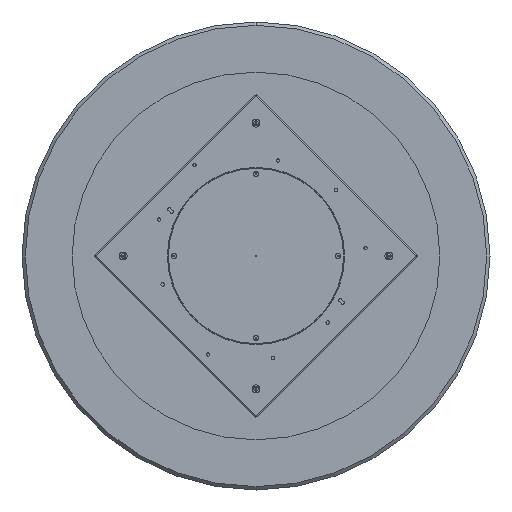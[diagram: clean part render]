
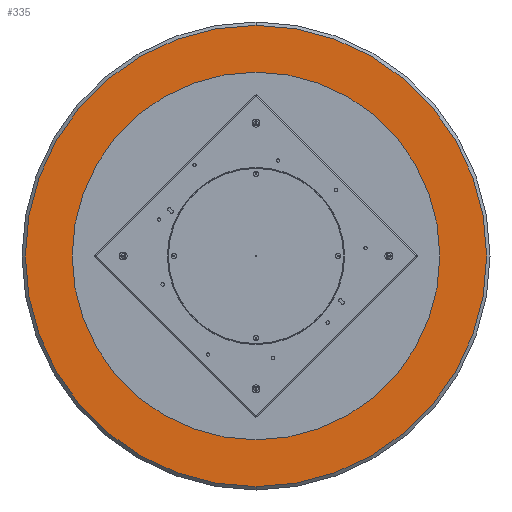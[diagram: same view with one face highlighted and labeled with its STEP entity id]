
A CAD part, front view. The second image highlights one B-rep face of the part: STEP entity #335.
In plain terms, the highlighted planar face has unit normal (0, -1, 0).
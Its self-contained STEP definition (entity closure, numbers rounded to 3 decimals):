
#71 = EDGE_CURVE ( 'NONE', #10895, #11039, #17154, .T. ) ;
#335 = ADVANCED_FACE ( 'NONE', ( #8875, #6100 ), #7456, .T. ) ;
#528 = DIRECTION ( 'NONE',  ( 0., -1., 0. ) ) ;
#2149 = DIRECTION ( 'NONE',  ( 0., -1., 0. ) ) ;
#2324 = EDGE_CURVE ( 'NONE', #11039, #10895, #12398, .T. ) ;
#2680 = AXIS2_PLACEMENT_3D ( 'NONE', #14546, #7932, #17485 ) ;
#3174 = EDGE_CURVE ( 'NONE', #7413, #7757, #3561, .T. ) ;
#3289 = AXIS2_PLACEMENT_3D ( 'NONE', #8807, #2149, #13249 ) ;
#3304 = DIRECTION ( 'NONE',  ( 0., 0., -1. ) ) ;
#3383 = ORIENTED_EDGE ( 'NONE', *, *, #71, .T. ) ;
#3561 = CIRCLE ( 'NONE', #3289, 3.3 ) ;
#5222 = CARTESIAN_POINT ( 'NONE',  ( 0., 0., 0. ) ) ;
#6100 = FACE_OUTER_BOUND ( 'NONE', #10263, .T. ) ;
#6308 = AXIS2_PLACEMENT_3D ( 'NONE', #5222, #10666, #17263 ) ;
#7001 = CARTESIAN_POINT ( 'NONE',  ( 0., 0., 0. ) ) ;
#7360 = CARTESIAN_POINT ( 'NONE',  ( 0., 0., 0. ) ) ;
#7413 = VERTEX_POINT ( 'NONE', #13273 ) ;
#7456 = PLANE ( 'NONE',  #12643 ) ;
#7473 = AXIS2_PLACEMENT_3D ( 'NONE', #7001, #8335, #15127 ) ;
#7757 = VERTEX_POINT ( 'NONE', #12823 ) ;
#7775 = EDGE_LOOP ( 'NONE', ( #11787, #14778 ) ) ;
#7932 = DIRECTION ( 'NONE',  ( 0., -1., 0. ) ) ;
#8335 = DIRECTION ( 'NONE',  ( 0., -1., 0. ) ) ;
#8342 = ORIENTED_EDGE ( 'NONE', *, *, #2324, .T. ) ;
#8807 = CARTESIAN_POINT ( 'NONE',  ( 0., 0., 0. ) ) ;
#8875 = FACE_BOUND ( 'NONE', #7775, .T. ) ;
#9341 = EDGE_CURVE ( 'NONE', #7757, #7413, #13728, .T. ) ;
#10263 = EDGE_LOOP ( 'NONE', ( #8342, #3383 ) ) ;
#10666 = DIRECTION ( 'NONE',  ( 0., -1., 0. ) ) ;
#10895 = VERTEX_POINT ( 'NONE', #13779 ) ;
#11039 = VERTEX_POINT ( 'NONE', #11082 ) ;
#11082 = CARTESIAN_POINT ( 'NONE',  ( 0., 0., 690. ) ) ;
#11787 = ORIENTED_EDGE ( 'NONE', *, *, #9341, .F. ) ;
#12398 = CIRCLE ( 'NONE', #2680, 690. ) ;
#12643 = AXIS2_PLACEMENT_3D ( 'NONE', #7360, #528, #3304 ) ;
#12823 = CARTESIAN_POINT ( 'NONE',  ( 0., 0., -3.3 ) ) ;
#13249 = DIRECTION ( 'NONE',  ( 0., 0., -1. ) ) ;
#13273 = CARTESIAN_POINT ( 'NONE',  ( 0., 0., 3.3 ) ) ;
#13728 = CIRCLE ( 'NONE', #6308, 3.3 ) ;
#13779 = CARTESIAN_POINT ( 'NONE',  ( 0., 0., -690. ) ) ;
#14546 = CARTESIAN_POINT ( 'NONE',  ( 0., 0., 0. ) ) ;
#14778 = ORIENTED_EDGE ( 'NONE', *, *, #3174, .F. ) ;
#15127 = DIRECTION ( 'NONE',  ( 0., 0., -1. ) ) ;
#17154 = CIRCLE ( 'NONE', #7473, 690. ) ;
#17263 = DIRECTION ( 'NONE',  ( 0., 0., -1. ) ) ;
#17485 = DIRECTION ( 'NONE',  ( 0., 0., -1. ) ) ;
